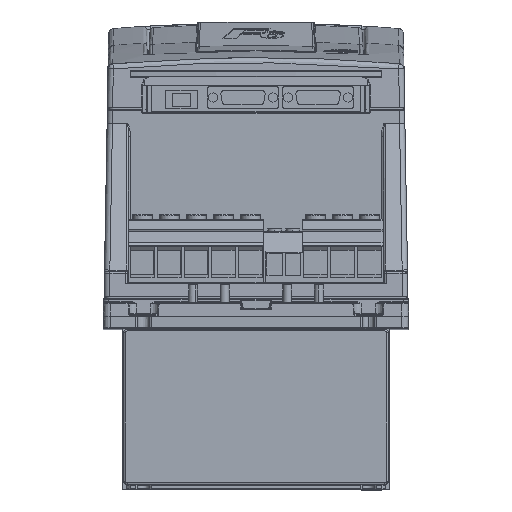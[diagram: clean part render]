
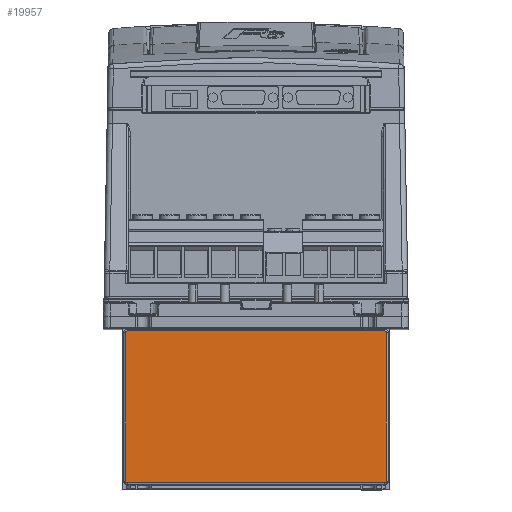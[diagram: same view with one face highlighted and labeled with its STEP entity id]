
A CAD part, top view. The second image highlights one B-rep face of the part: STEP entity #19957.
In plain terms, the highlighted planar face has unit normal (0, 0, 1).
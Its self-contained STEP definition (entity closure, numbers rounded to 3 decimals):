
#1227 = LINE ( 'NONE', #50570, #45787 ) ;
#1915 = CARTESIAN_POINT ( 'NONE',  ( 72.5, -87.15, 60. ) ) ;
#2854 = ORIENTED_EDGE ( 'NONE', *, *, #68821, .T. ) ;
#3011 = CARTESIAN_POINT ( 'NONE',  ( 71.5, -87.15, 60. ) ) ;
#4325 = VERTEX_POINT ( 'NONE', #44822 ) ;
#8633 = DIRECTION ( 'NONE',  ( 1., 0., 0. ) ) ;
#9844 = DIRECTION ( 'NONE',  ( 1., 0., 0. ) ) ;
#10303 = CIRCLE ( 'NONE', #49984, 1. ) ;
#10393 = AXIS2_PLACEMENT_3D ( 'NONE', #3011, #30697, #46999 ) ;
#10591 = CARTESIAN_POINT ( 'NONE',  ( -72.5, -45.9, 60. ) ) ;
#11652 = DIRECTION ( 'NONE',  ( 0., -1., 0. ) ) ;
#13851 = EDGE_CURVE ( 'NONE', #60671, #68354, #46515, .T. ) ;
#17227 = LINE ( 'NONE', #46594, #34124 ) ;
#17339 = LINE ( 'NONE', #10591, #37013 ) ;
#17644 = EDGE_LOOP ( 'NONE', ( #40210, #43043, #52643, #2854, #41174, #62927, #24138, #28562 ) ) ;
#19957 = ADVANCED_FACE ( 'NONE', ( #61542 ), #61889, .T. ) ;
#20508 = VERTEX_POINT ( 'NONE', #24555 ) ;
#21409 = VERTEX_POINT ( 'NONE', #49459 ) ;
#23877 = VERTEX_POINT ( 'NONE', #40081 ) ;
#24138 = ORIENTED_EDGE ( 'NONE', *, *, #43920, .T. ) ;
#24382 = AXIS2_PLACEMENT_3D ( 'NONE', #29234, #28560, #45540 ) ;
#24555 = CARTESIAN_POINT ( 'NONE',  ( -72.5, -87.15, 60. ) ) ;
#25286 = DIRECTION ( 'NONE',  ( -1., 0., 0. ) ) ;
#28536 = CARTESIAN_POINT ( 'NONE',  ( -71.5, -4.65, 60. ) ) ;
#28537 = CIRCLE ( 'NONE', #10393, 1. ) ;
#28560 = DIRECTION ( 'NONE',  ( 0., 0., 1. ) ) ;
#28562 = ORIENTED_EDGE ( 'NONE', *, *, #57655, .T. ) ;
#29234 = CARTESIAN_POINT ( 'NONE',  ( 0., -45.9, 60. ) ) ;
#30697 = DIRECTION ( 'NONE',  ( 0., 0., 1. ) ) ;
#33837 = DIRECTION ( 'NONE',  ( 1., 0., 0. ) ) ;
#34092 = VECTOR ( 'NONE', #66536, 1000. ) ;
#34124 = VECTOR ( 'NONE', #8633, 1000. ) ;
#34200 = EDGE_CURVE ( 'NONE', #68354, #21409, #1227, .T. ) ;
#37013 = VECTOR ( 'NONE', #11652, 1000. ) ;
#40081 = CARTESIAN_POINT ( 'NONE',  ( -72.5, -4.65, 60. ) ) ;
#40210 = ORIENTED_EDGE ( 'NONE', *, *, #55025, .T. ) ;
#40627 = LINE ( 'NONE', #50921, #34092 ) ;
#41174 = ORIENTED_EDGE ( 'NONE', *, *, #63523, .T. ) ;
#42088 = CIRCLE ( 'NONE', #62490, 1. ) ;
#42318 = CARTESIAN_POINT ( 'NONE',  ( 71.5, -4.65, 60. ) ) ;
#42400 = VERTEX_POINT ( 'NONE', #65468 ) ;
#42838 = CARTESIAN_POINT ( 'NONE',  ( 71.5, -3.65, 60. ) ) ;
#43043 = ORIENTED_EDGE ( 'NONE', *, *, #13851, .T. ) ;
#43356 = DIRECTION ( 'NONE',  ( 0., 0., 1. ) ) ;
#43920 = EDGE_CURVE ( 'NONE', #4325, #42400, #17227, .T. ) ;
#44257 = AXIS2_PLACEMENT_3D ( 'NONE', #42318, #43356, #69998 ) ;
#44822 = CARTESIAN_POINT ( 'NONE',  ( -71.5, -88.15, 60. ) ) ;
#45540 = DIRECTION ( 'NONE',  ( 1., 0., 0. ) ) ;
#45787 = VECTOR ( 'NONE', #25286, 1000. ) ;
#46515 = CIRCLE ( 'NONE', #44257, 1. ) ;
#46594 = CARTESIAN_POINT ( 'NONE',  ( 0., -88.15, 60. ) ) ;
#46999 = DIRECTION ( 'NONE',  ( 1., 0., 0. ) ) ;
#47091 = DIRECTION ( 'NONE',  ( 0., 0., 1. ) ) ;
#48594 = CARTESIAN_POINT ( 'NONE',  ( 72.5, -4.65, 60. ) ) ;
#49459 = CARTESIAN_POINT ( 'NONE',  ( -71.5, -3.65, 60. ) ) ;
#49984 = AXIS2_PLACEMENT_3D ( 'NONE', #58846, #47091, #9844 ) ;
#50214 = VERTEX_POINT ( 'NONE', #1915 ) ;
#50570 = CARTESIAN_POINT ( 'NONE',  ( 0., -3.65, 60. ) ) ;
#50921 = CARTESIAN_POINT ( 'NONE',  ( 72.5, -45.9, 60. ) ) ;
#52643 = ORIENTED_EDGE ( 'NONE', *, *, #34200, .T. ) ;
#55025 = EDGE_CURVE ( 'NONE', #50214, #60671, #40627, .T. ) ;
#57655 = EDGE_CURVE ( 'NONE', #42400, #50214, #28537, .T. ) ;
#58846 = CARTESIAN_POINT ( 'NONE',  ( -71.5, -87.15, 60. ) ) ;
#60671 = VERTEX_POINT ( 'NONE', #48594 ) ;
#61542 = FACE_OUTER_BOUND ( 'NONE', #17644, .T. ) ;
#61889 = PLANE ( 'NONE',  #24382 ) ;
#62490 = AXIS2_PLACEMENT_3D ( 'NONE', #28536, #65447, #33837 ) ;
#62927 = ORIENTED_EDGE ( 'NONE', *, *, #68995, .T. ) ;
#63523 = EDGE_CURVE ( 'NONE', #23877, #20508, #17339, .T. ) ;
#65447 = DIRECTION ( 'NONE',  ( 0., 0., 1. ) ) ;
#65468 = CARTESIAN_POINT ( 'NONE',  ( 71.5, -88.15, 60. ) ) ;
#66536 = DIRECTION ( 'NONE',  ( 0., 1., 0. ) ) ;
#68354 = VERTEX_POINT ( 'NONE', #42838 ) ;
#68821 = EDGE_CURVE ( 'NONE', #21409, #23877, #42088, .T. ) ;
#68995 = EDGE_CURVE ( 'NONE', #20508, #4325, #10303, .T. ) ;
#69998 = DIRECTION ( 'NONE',  ( 1., 0., 0. ) ) ;
